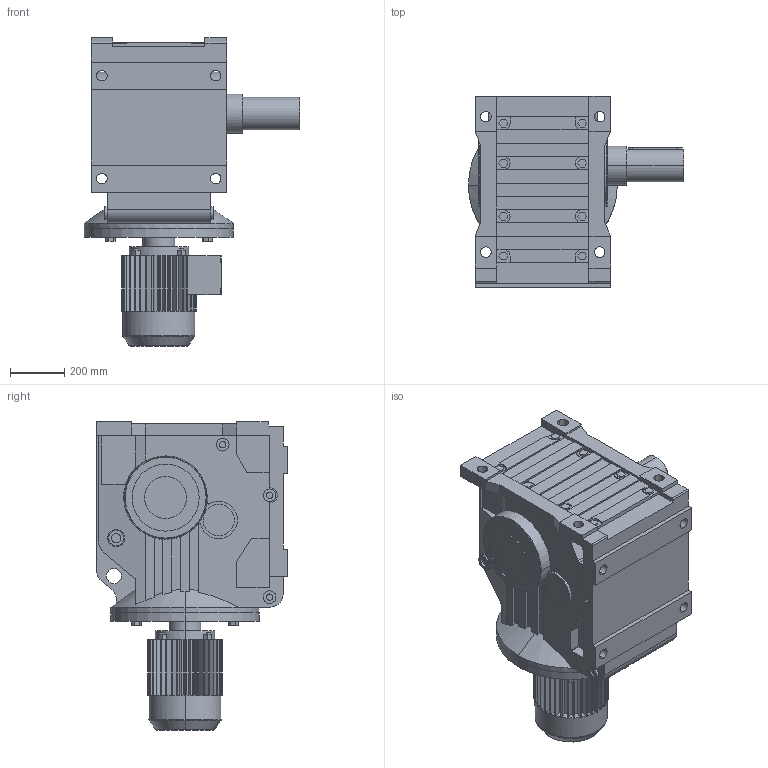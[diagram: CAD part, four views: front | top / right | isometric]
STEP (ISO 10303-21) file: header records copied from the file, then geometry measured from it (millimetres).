
FILE_DESCRIPTION(('Open CASCADE Model'),'2;1');
FILE_NAME('Open CASCADE Shape Model','2021-05-19T16:17:09',('Author'),( 'Open CASCADE'),'Open CASCADE STEP processor 6.3','Open CASCADE 6.3' ,'Unknown');
FILE_SCHEMA(('AUTOMOTIVE_DESIGN_CC2 { 1 2 10303 214 -1 1 5 4 }'));
Length unit declared in the file: millimetre
Products named in the file (4): 1_K157DV160M-A; K37‵157_157.step; 萇儂_550-DV160M-433-545-275-230.step; す瑩妗陑粣K_157.step
Assembly tree (3 placements, depth 2):
  1_K157DV160M-A
    K37‵157_157.step
    萇儂_550-DV160M-433-545-275-230.step
    す瑩妗陑粣K_157.step
Bounding box: 795 x 705 x 1139 mm (x, y, z)
Volume: 210370606.6 mm3; surface area: 4578895.2 mm2
Topology: 3 solids, 3 shells, 837 faces, 2207 edges, 1433 vertices
Faces by surface type: plane 584, cylinder 230, cone 15, torus 8
Entity records: 58037 total; most frequent: CARTESIAN_POINT 16102, DIRECTION 7223, ORIENTED_EDGE 4410, PCURVE 4410, DEFINITIONAL_REPRESENTATION 4410, LINE 3940, VECTOR 3940, EDGE_CURVE 2205
